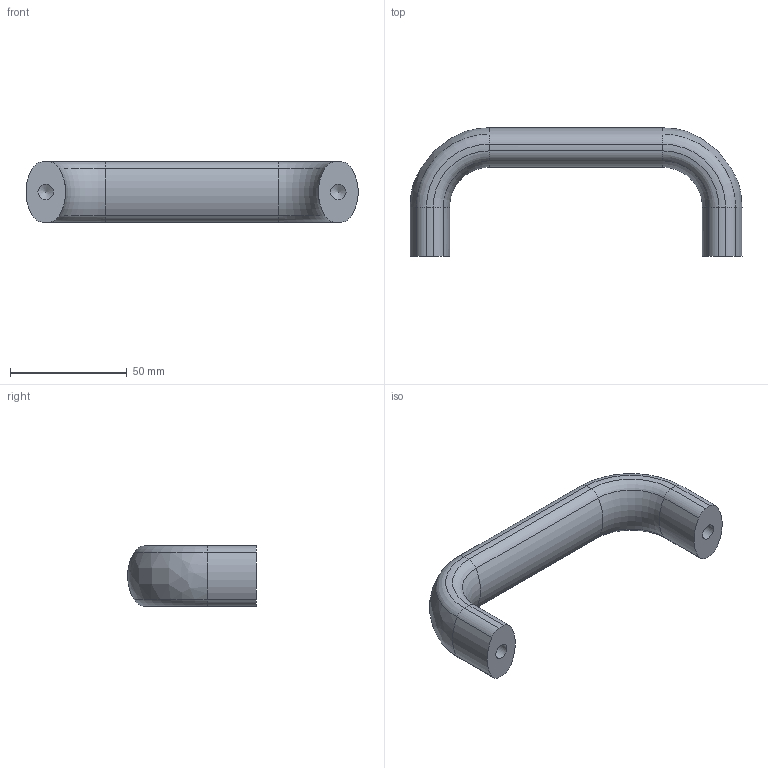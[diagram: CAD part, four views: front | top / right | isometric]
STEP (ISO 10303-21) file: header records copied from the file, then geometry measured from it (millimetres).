
FILE_DESCRIPTION( ( 'STEP AP203' ), '1' );
FILE_NAME( 'C:/Temp/Ganter_Step_05_03_2020/data/1_2/gn_565/Cabinet ''''U'''' handle GN 565-26-125-BL.stp', '2020-03-05T10:08:57', ( 'License CC BY-ND 4.0' ), ( 'CADENAS' ), ' ', 'PARTsolutions', ' ' );
FILE_SCHEMA( ( 'CONFIG_CONTROL_DESIGN' ) );
Length unit declared in the file: millimetre
Products named in the file (1): _Cabinet ''U'' handle GN 565-26-125-BL
Bounding box: 141.88 x 54.99 x 25.99 mm (x, y, z)
Volume: 68919.2 mm3; surface area: 14923.9 mm2
Topology: 1 solids, 1 shells, 52 faces, 130 edges, 80 vertices
Faces by surface type: cylinder 26, torus 14, plane 8, cone 2, bspline 2
Full cylindrical faces by diameter (mm): 6.647 x2
Entity records: 1648 total; most frequent: CARTESIAN_POINT 341, DIRECTION 302, ORIENTED_EDGE 248, AXIS2_PLACEMENT_3D 139, EDGE_CURVE 124, CIRCLE 88, VERTEX_POINT 80, EDGE_LOOP 56
